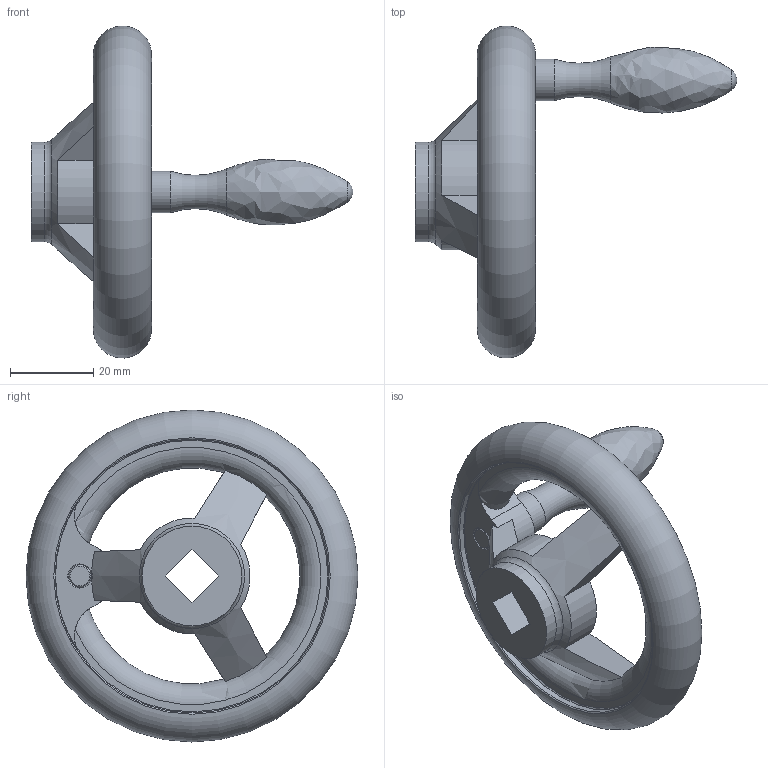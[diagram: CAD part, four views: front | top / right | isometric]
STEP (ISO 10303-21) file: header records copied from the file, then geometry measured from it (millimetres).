
FILE_DESCRIPTION( ( 'STEP AP203' ), '1' );
FILE_NAME( 'C:/Temp/Ganter_Step_05_03_2020/data/1_3/din_950/din_950_v/din_950_v_f/Handwheel DIN 950-GG-80-V9-F.stp', '2020-03-05T10:31:43', ( 'License CC BY-ND 4.0' ), ( 'CADENAS' ), ' ', 'PARTsolutions', ' ' );
FILE_SCHEMA( ( 'CONFIG_CONTROL_DESIGN' ) );
Length unit declared in the file: millimetre
Products named in the file (1): _Handwheel DIN 950-GG-80-V9-F
Bounding box: 77.5 x 79.98 x 79.98 mm (x, y, z)
Volume: 45467.5 mm3; surface area: 15624.1 mm2
Topology: 1 solids, 1 shells, 46 faces, 133 edges, 85 vertices
Faces by surface type: plane 18, cylinder 11, torus 11, cone 4, sphere 1, bspline 1
Full cylindrical faces by diameter (mm): 10 x1, 24 x2, 66 x2
Entity records: 1675 total; most frequent: CARTESIAN_POINT 554, DIRECTION 220, ORIENTED_EDGE 210, EDGE_CURVE 105, AXIS2_PLACEMENT_3D 98, VERTEX_POINT 78, EDGE_LOOP 69, FACE_OUTER_BOUND 60
